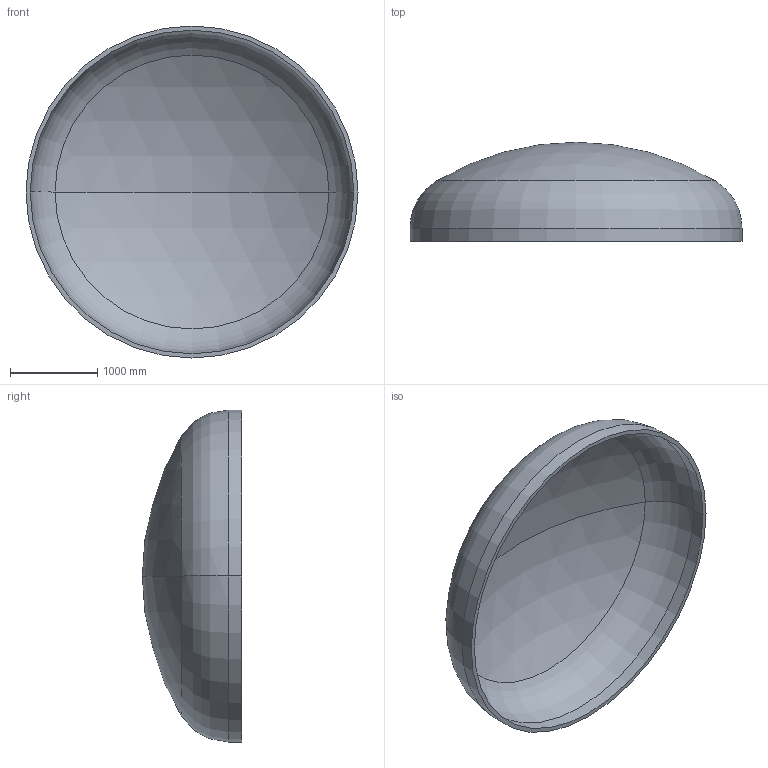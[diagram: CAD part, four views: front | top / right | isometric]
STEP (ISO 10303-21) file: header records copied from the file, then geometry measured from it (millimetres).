
FILE_DESCRIPTION (( 'STEP AP203' ), '1' );
FILE_NAME ('DIN 28013 Korbbogenform_-_Boden DIN 28013 - 3800 x 150 - I - s=49.step', '2016-07-01T21:29:03', ( '' ), ( '' ), 'SwSTEP 2.0', 'SolidWorks 2013', '' );
FILE_SCHEMA (( 'CONFIG_CONTROL_DESIGN' ));
Length unit declared in the file: millimetre
Products named in the file (1): DIN 28013 Korbbogenform_-_Boden DIN 28013 - 3800 x 150 - I - s=49
Bounding box: 3800 x 1135.61 x 3800 mm (x, y, z)
Volume: 843214270.5 mm3; surface area: 34999347.1 mm2
Topology: 1 solids, 1 shells, 13 faces, 24 edges, 14 vertices
Faces by surface type: torus 4, cylinder 4, sphere 4, plane 1
Entity records: 407 total; most frequent: DIRECTION 72, CARTESIAN_POINT 52, ORIENTED_EDGE 48, AXIS2_PLACEMENT_3D 34, EDGE_CURVE 24, CIRCLE 20, VERTEX_POINT 14, EDGE_LOOP 14
